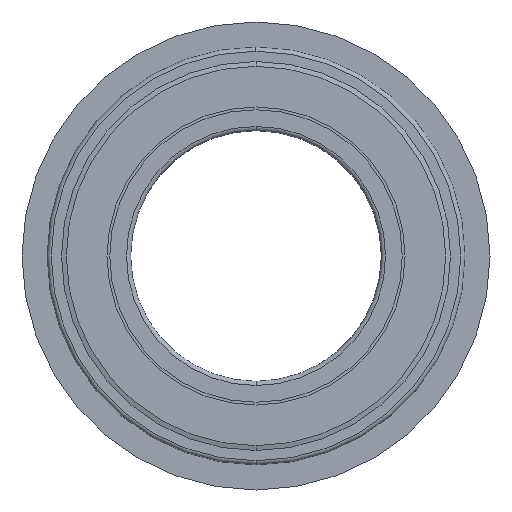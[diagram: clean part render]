
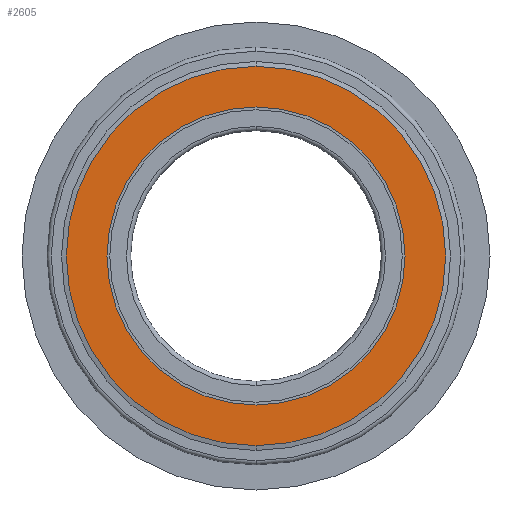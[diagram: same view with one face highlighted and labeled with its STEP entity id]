
A CAD part, left-side view. The second image highlights one B-rep face of the part: STEP entity #2605.
In plain terms, the highlighted planar face has unit normal (-1, 0, 0).
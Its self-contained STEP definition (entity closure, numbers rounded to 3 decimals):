
#2067=CARTESIAN_POINT('',(0.045,0.,
0.));
#2068=DIRECTION('',(1.,0.,0.));
#2069=DIRECTION('',(0.,0.,1.));
#2070=AXIS2_PLACEMENT_3D('',#2067,#2068,#2069);
#2072=CARTESIAN_POINT('',(0.045,0.,
0.));
#2073=DIRECTION('',(1.,0.,0.));
#2074=DIRECTION('',(0.,0.,-1.));
#2075=AXIS2_PLACEMENT_3D('',#2072,#2073,#2074);
#2077=CARTESIAN_POINT('',(0.045,0.,
0.));
#2078=DIRECTION('',(-1.,0.,0.));
#2079=DIRECTION('',(0.,0.,-1.));
#2080=AXIS2_PLACEMENT_3D('',#2077,#2078,#2079);
#2082=CARTESIAN_POINT('',(0.045,0.,
0.));
#2083=DIRECTION('',(-1.,0.,0.));
#2084=DIRECTION('',(0.,0.,1.));
#2085=AXIS2_PLACEMENT_3D('',#2082,#2083,#2084);
#2478=CARTESIAN_POINT('',(0.045,0.,4.54));
#2479=VERTEX_POINT('',#2478);
#2480=CARTESIAN_POINT('',(0.045,0.,-4.54));
#2481=VERTEX_POINT('',#2480);
#2488=CARTESIAN_POINT('',(0.045,0.,3.568));
#2489=CARTESIAN_POINT('',(0.045,0.,-3.568));
#2490=VERTEX_POINT('',#2488);
#2491=VERTEX_POINT('',#2489);
#2590=CARTESIAN_POINT('',(0.045,0.,4.02));
#2591=DIRECTION('',(-1.,0.,0.));
#2592=DIRECTION('',(0.,1.,0.));
#2593=AXIS2_PLACEMENT_3D('',#2590,#2591,#2592);
#2594=PLANE('',#2593);
#2596=ORIENTED_EDGE('',*,*,#2595,.F.);
#2598=ORIENTED_EDGE('',*,*,#2597,.F.);
#2599=EDGE_LOOP('',(#2596,#2598));
#2600=FACE_OUTER_BOUND('',#2599,.F.);
#2601=ORIENTED_EDGE('',*,*,#2569,.F.);
#2602=ORIENTED_EDGE('',*,*,#2585,.F.);
#2603=EDGE_LOOP('',(#2601,#2602));
#2604=FACE_BOUND('',#2603,.F.);
#2605=ADVANCED_FACE('',(#2600,#2604),#2594,.T.);
#2071=CIRCLE('',#2070,3.568);
#2076=CIRCLE('',#2075,3.568);
#2081=CIRCLE('',#2080,4.54);
#2086=CIRCLE('',#2085,4.54);
#2569=EDGE_CURVE('',#2490,#2491,#2071,.T.);
#2585=EDGE_CURVE('',#2491,#2490,#2076,.T.);
#2595=EDGE_CURVE('',#2481,#2479,#2081,.T.);
#2597=EDGE_CURVE('',#2479,#2481,#2086,.T.);
